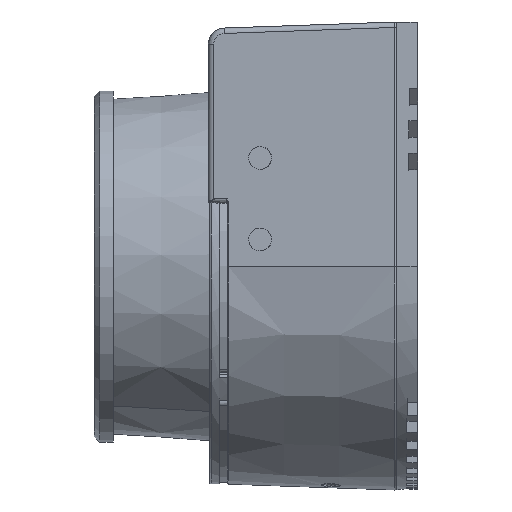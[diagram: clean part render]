
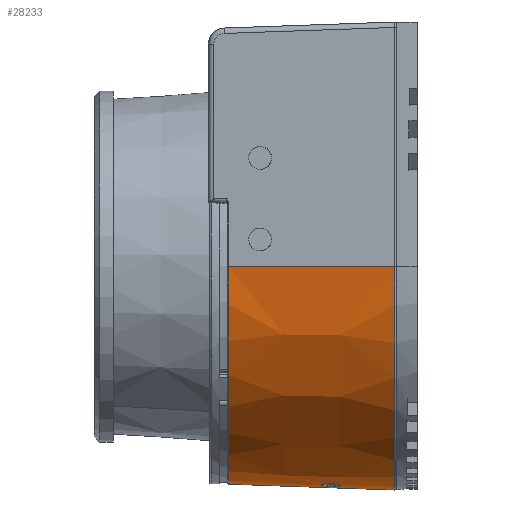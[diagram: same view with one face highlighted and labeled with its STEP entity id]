
A CAD part, left-side view. The second image highlights one B-rep face of the part: STEP entity #28233.
In plain terms, the highlighted conical face has half-angle 2 degrees and reference radius 40 mm.
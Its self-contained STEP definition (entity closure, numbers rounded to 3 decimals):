
#154 = CARTESIAN_POINT ( 'NONE',  ( -6.445, 13.695, -40.09 ) ) ;
#398 = DIRECTION ( 'NONE',  ( 0., -1., 0. ) ) ;
#1487 = CARTESIAN_POINT ( 'NONE',  ( -4.245, 12., -40.441 ) ) ;
#1570 = AXIS2_PLACEMENT_3D ( 'NONE', #23580, #48721, #18811 ) ;
#1704 = CARTESIAN_POINT ( 'NONE',  ( -4.599, 13.079, -40.365 ) ) ;
#1893 = CARTESIAN_POINT ( 'NONE',  ( -7.072, 10.601, -40.094 ) ) ;
#1918 = CARTESIAN_POINT ( 'NONE',  ( -5.121, 13.52, -40.286 ) ) ;
#4802 = AXIS2_PLACEMENT_3D ( 'NONE', #35040, #398, #19610 ) ;
#5085 = DIRECTION ( 'NONE',  ( 0., -0.999, -0.035 ) ) ;
#5166 = CARTESIAN_POINT ( 'NONE',  ( -4.302, 12.455, -40.419 ) ) ;
#5299 = CARTESIAN_POINT ( 'NONE',  ( -40.007, 30.807, 0. ) ) ;
#5394 = CARTESIAN_POINT ( 'NONE',  ( -5.543, 13.694, -40.224 ) ) ;
#6248 = EDGE_LOOP ( 'NONE', ( #43430, #31785, #38974, #36161 ) ) ;
#6514 = ORIENTED_EDGE ( 'NONE', *, *, #8988, .F. ) ;
#6705 = CARTESIAN_POINT ( 'NONE',  ( -6.223, 13.739, -40.123 ) ) ;
#7113 = CARTESIAN_POINT ( 'NONE',  ( -6.23, 10.251, -40.246 ) ) ;
#8156 = EDGE_CURVE ( 'NONE', #22413, #36461, #10478, .T. ) ;
#8379 = VERTEX_POINT ( 'NONE', #20304 ) ;
#8988 = EDGE_CURVE ( 'NONE', #64465, #41073, #18150, .T. ) ;
#9150 = EDGE_CURVE ( 'NONE', #41073, #64465, #62555, .T. ) ;
#9245 = EDGE_LOOP ( 'NONE', ( #56911, #6514 ) ) ;
#10478 = CIRCLE ( 'NONE', #1570, 40.007 ) ;
#11753 = CARTESIAN_POINT ( 'NONE',  ( -7.567, 12.779, -39.926 ) ) ;
#12355 = CARTESIAN_POINT ( 'NONE',  ( -4.245, 11.885, -40.445 ) ) ;
#12518 = EDGE_CURVE ( 'NONE', #22413, #8379, #37714, .T. ) ;
#15007 = CARTESIAN_POINT ( 'NONE',  ( -7.511, 12.882, -39.932 ) ) ;
#15636 = CARTESIAN_POINT ( 'NONE',  ( -40., 31., 0. ) ) ;
#16320 = CARTESIAN_POINT ( 'NONE',  ( -4.336, 12.566, -40.412 ) ) ;
#16530 = CARTESIAN_POINT ( 'NONE',  ( -5.432, 13.661, -40.241 ) ) ;
#17567 = CARTESIAN_POINT ( 'NONE',  ( -5.229, 10.423, -40.382 ) ) ;
#17701 = CARTESIAN_POINT ( 'NONE',  ( 0., 30.807, -40.007 ) ) ;
#18150 = B_SPLINE_CURVE_WITH_KNOTS ( 'NONE', 3,
 ( #62074, #12355, #21717, #47488, #62288, #52074, #36511, #31947, #26504, #36951, #17567, #32351, #47276, #7113, #21934, #21501, #1893, #26916, #42007, #57074, #22356, #61426, #36731, #26713, #57286, #46854 ),
 .UNSPECIFIED., .F., .F.,
 ( 4, 2, 2, 2, 2, 2, 2, 2, 2, 2, 2, 2, 4 ),
 ( 0.007, 0.007, 0.008, 0.008, 0.009, 0.009, 0.01, 0.01, 0.011, 0.011, 0.012, 0.012, 0.012 ),
 .UNSPECIFIED. ) ;
#18811 = DIRECTION ( 'NONE',  ( 0., 0., -1. ) ) ;
#19063 = VECTOR ( 'NONE', #27112, 1000. ) ;
#19610 = DIRECTION ( 'NONE',  ( 0., 0., -1. ) ) ;
#20304 = CARTESIAN_POINT ( 'NONE',  ( -41.075, 0.207, 0. ) ) ;
#21501 = CARTESIAN_POINT ( 'NONE',  ( -6.877, 10.471, -40.133 ) ) ;
#21717 = CARTESIAN_POINT ( 'NONE',  ( -4.257, 11.768, -40.448 ) ) ;
#21747 = CARTESIAN_POINT ( 'NONE',  ( -5.767, 13.739, -40.191 ) ) ;
#21934 = CARTESIAN_POINT ( 'NONE',  ( -6.459, 10.297, -40.208 ) ) ;
#22356 = CARTESIAN_POINT ( 'NONE',  ( -7.568, 11.223, -39.981 ) ) ;
#22413 = VERTEX_POINT ( 'NONE', #5299 ) ;
#23210 = VECTOR ( 'NONE', #5085, 1000. ) ;
#23580 = CARTESIAN_POINT ( 'NONE',  ( 0., 30.807, 0. ) ) ;
#23834 = CARTESIAN_POINT ( 'NONE',  ( -7.745, 12., -39.919 ) ) ;
#25197 = CARTESIAN_POINT ( 'NONE',  ( -7.31, 13.16, -39.96 ) ) ;
#26504 = CARTESIAN_POINT ( 'NONE',  ( -4.935, 10.603, -40.412 ) ) ;
#26701 = DIRECTION ( 'NONE',  ( 0., 0., 1. ) ) ;
#26713 = CARTESIAN_POINT ( 'NONE',  ( -7.734, 11.769, -39.929 ) ) ;
#26737 = CARTESIAN_POINT ( 'NONE',  ( -6.868, 13.521, -40.026 ) ) ;
#26909 = DIRECTION ( 'NONE',  ( 0., 1., 0. ) ) ;
#26916 = CARTESIAN_POINT ( 'NONE',  ( -7.314, 10.844, -40.041 ) ) ;
#27112 = DIRECTION ( 'NONE',  ( -0.035, -0.999, 0. ) ) ;
#27181 = FACE_BOUND ( 'NONE', #9245, .T. ) ;
#28233 = ADVANCED_FACE ( 'NONE', ( #27181, #29471 ), #60757, .T. ) ;
#29471 = FACE_OUTER_BOUND ( 'NONE', #6248, .T. ) ;
#30000 = CARTESIAN_POINT ( 'NONE',  ( -7.383, 13.072, -39.95 ) ) ;
#31042 = LINE ( 'NONE', #39762, #23210 ) ;
#31336 = CARTESIAN_POINT ( 'NONE',  ( -5.222, 13.574, -40.272 ) ) ;
#31751 = CARTESIAN_POINT ( 'NONE',  ( -7.148, 13.322, -39.984 ) ) ;
#31785 = ORIENTED_EDGE ( 'NONE', *, *, #46818, .T. ) ;
#31947 = CARTESIAN_POINT ( 'NONE',  ( -4.846, 10.675, -40.42 ) ) ;
#32351 = CARTESIAN_POINT ( 'NONE',  ( -5.547, 10.293, -40.344 ) ) ;
#33004 = VERTEX_POINT ( 'NONE', #59010 ) ;
#35014 = CARTESIAN_POINT ( 'NONE',  ( -7.699, 12.461, -39.912 ) ) ;
#35040 = CARTESIAN_POINT ( 'NONE',  ( 0., 31., 0. ) ) ;
#35226 = CARTESIAN_POINT ( 'NONE',  ( -5.879, 13.75, -40.175 ) ) ;
#36161 = ORIENTED_EDGE ( 'NONE', *, *, #12518, .F. ) ;
#36461 = VERTEX_POINT ( 'NONE', #17701 ) ;
#36511 = CARTESIAN_POINT ( 'NONE',  ( -4.6, 10.919, -40.441 ) ) ;
#36541 = CARTESIAN_POINT ( 'NONE',  ( -4.841, 13.32, -40.328 ) ) ;
#36731 = CARTESIAN_POINT ( 'NONE',  ( -7.689, 11.544, -39.946 ) ) ;
#36951 = CARTESIAN_POINT ( 'NONE',  ( -5.126, 10.477, -40.393 ) ) ;
#37714 = LINE ( 'NONE', #15636, #19063 ) ;
#38974 = ORIENTED_EDGE ( 'NONE', *, *, #42404, .T. ) ;
#39762 = CARTESIAN_POINT ( 'NONE',  ( 0., 31., -40. ) ) ;
#41073 = VERTEX_POINT ( 'NONE', #23834 ) ;
#41176 = CARTESIAN_POINT ( 'NONE',  ( -6.767, 13.575, -40.041 ) ) ;
#41604 = CARTESIAN_POINT ( 'NONE',  ( -4.245, 12.115, -40.437 ) ) ;
#41818 = CARTESIAN_POINT ( 'NONE',  ( -7.058, 13.395, -39.997 ) ) ;
#42007 = CARTESIAN_POINT ( 'NONE',  ( -7.386, 10.931, -40.025 ) ) ;
#42404 = EDGE_CURVE ( 'NONE', #33004, #8379, #43317, .T. ) ;
#43317 = CIRCLE ( 'NONE', #52446, 41.075 ) ;
#43430 = ORIENTED_EDGE ( 'NONE', *, *, #8156, .T. ) ;
#46239 = CARTESIAN_POINT ( 'NONE',  ( -6.554, 13.662, -40.073 ) ) ;
#46450 = CARTESIAN_POINT ( 'NONE',  ( -4.467, 12.883, -40.386 ) ) ;
#46652 = CARTESIAN_POINT ( 'NONE',  ( -7.745, 12., -39.919 ) ) ;
#46818 = EDGE_CURVE ( 'NONE', #36461, #33004, #31042, .T. ) ;
#46854 = CARTESIAN_POINT ( 'NONE',  ( -7.745, 12., -39.919 ) ) ;
#47276 = CARTESIAN_POINT ( 'NONE',  ( -5.776, 10.249, -40.314 ) ) ;
#47488 = CARTESIAN_POINT ( 'NONE',  ( -4.302, 11.543, -40.451 ) ) ;
#48721 = DIRECTION ( 'NONE',  ( 0., -1., 0. ) ) ;
#51251 = CARTESIAN_POINT ( 'NONE',  ( -4.257, 12.229, -40.432 ) ) ;
#51457 = CARTESIAN_POINT ( 'NONE',  ( -4.931, 13.393, -40.315 ) ) ;
#52074 = CARTESIAN_POINT ( 'NONE',  ( -4.469, 11.113, -40.448 ) ) ;
#52446 = AXIS2_PLACEMENT_3D ( 'NONE', #56430, #26909, #26701 ) ;
#56430 = CARTESIAN_POINT ( 'NONE',  ( 0., 0.207, 0. ) ) ;
#56668 = CARTESIAN_POINT ( 'NONE',  ( -7.745, 12.229, -39.911 ) ) ;
#56911 = ORIENTED_EDGE ( 'NONE', *, *, #9150, .F. ) ;
#57074 = CARTESIAN_POINT ( 'NONE',  ( -7.513, 11.121, -39.995 ) ) ;
#57286 = CARTESIAN_POINT ( 'NONE',  ( -7.745, 11.885, -39.923 ) ) ;
#59010 = CARTESIAN_POINT ( 'NONE',  ( 0., 0.207, -41.075 ) ) ;
#60757 = CONICAL_SURFACE ( 'NONE', #4802, 40., 0.035 ) ;
#61355 = CARTESIAN_POINT ( 'NONE',  ( -4.245, 12., -40.441 ) ) ;
#61426 = CARTESIAN_POINT ( 'NONE',  ( -7.655, 11.434, -39.957 ) ) ;
#61678 = CARTESIAN_POINT ( 'NONE',  ( -6.108, 13.75, -40.141 ) ) ;
#62074 = CARTESIAN_POINT ( 'NONE',  ( -4.245, 12., -40.441 ) ) ;
#62288 = CARTESIAN_POINT ( 'NONE',  ( -4.336, 11.433, -40.452 ) ) ;
#62555 = B_SPLINE_CURVE_WITH_KNOTS ( 'NONE', 3,
 ( #46652, #56668, #35014, #11753, #15007, #30000, #25197, #31751, #41818, #26737, #41176, #46239, #154, #6705, #61678, #35226, #21747, #5394, #16530, #31336, #1918, #51457, #36541, #1704, #46450, #16320, #5166, #51251, #41604, #1487 ),
 .UNSPECIFIED., .F., .F.,
 ( 4, 2, 2, 2, 2, 2, 2, 2, 2, 2, 2, 2, 2, 2, 4 ),
 ( 0.001, 0.002, 0.002, 0.003, 0.003, 0.004, 0.004, 0.004, 0.005, 0.005, 0.005, 0.006, 0.006, 0.007, 0.007 ),
 .UNSPECIFIED. ) ;
#64465 = VERTEX_POINT ( 'NONE', #61355 ) ;
